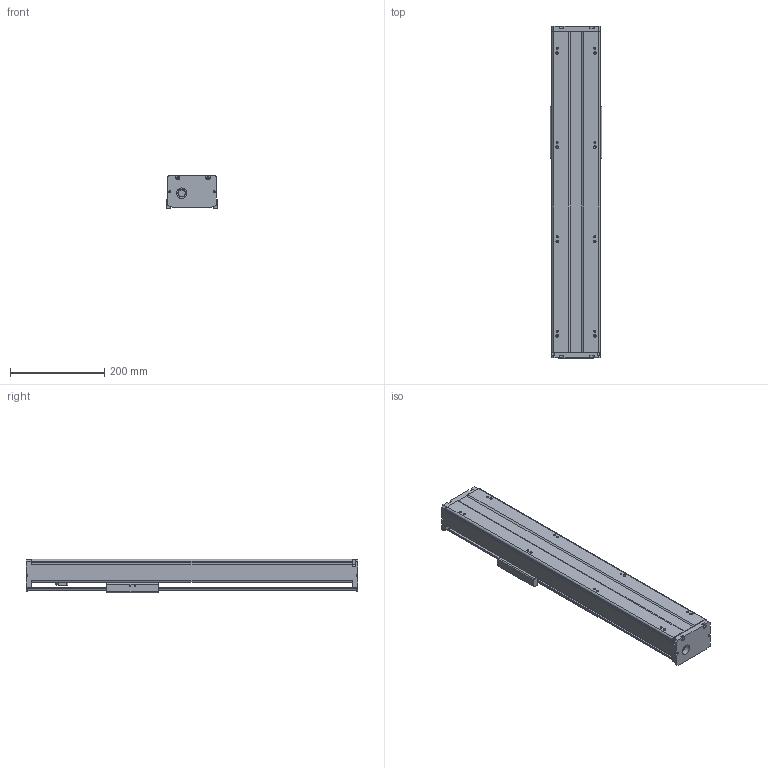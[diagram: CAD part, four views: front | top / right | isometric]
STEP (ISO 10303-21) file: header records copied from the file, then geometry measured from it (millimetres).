
FILE_DESCRIPTION(/* description */ (''),/* implementation_level */ '2;1');
FILE_NAME(/* name */ 'TKA100-450A1F0_asm1.stp',/* time_stamp */ '2017-02-20T16:14:16+08:00',/* author */ (''),/* organization */ (''),/* preprocessor_version */ 'ST-DEVELOPER v15',/* originating_system */ 'SIEMENS PLM Software NX 8.5',/* authorisation */ '');
FILE_SCHEMA (('AUTOMOTIVE_DESIGN { 1 0 10303 214 3 1 1 1 }'));
Length unit declared in the file: millimetre
Products named in the file (3): 200-02; 200-01; TKA100-450A1F0_asm1_stp
Assembly tree (2 placements, depth 2):
  TKA100-450A1F0_asm1_stp
    200-01
    200-02
Bounding box: 110 x 704 x 71 mm (x, y, z)
Volume: 1583329.3 mm3; surface area: 516492.7 mm2
Topology: 2 solids, 8 shells, 675 faces, 1800 edges, 1175 vertices
Faces by surface type: cylinder 261, plane 255, cone 106, torus 27, bspline 26
Full cylindrical faces by diameter (mm): 2.5 x6, 2.6 x8, 3.3 x8, 3.4 x8, 3.8 x4, 4.2 x17, 4.3 x4, 4.5 x4, 5 x1, 5.5 x16, 6.6 x4, 8 x5, 9 x4, 10 x8, 11 x4, 12 x6, 12.05 x2, 15.3 x1, 15.4 x1, 16 x1, 17 x2, 18 x1, 22 x1, 24 x1, 28 x5, 30 x1
Entity records: 25576 total; most frequent: CARTESIAN_POINT 9784, DIRECTION 3219, ORIENTED_EDGE 3032, EDGE_CURVE 1516, AXIS2_PLACEMENT_3D 1283, VERTEX_POINT 1105, EDGE_LOOP 970, ADVANCED_FACE 675
